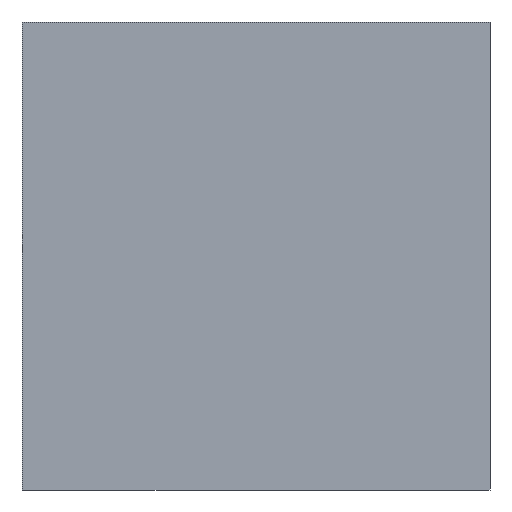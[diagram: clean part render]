
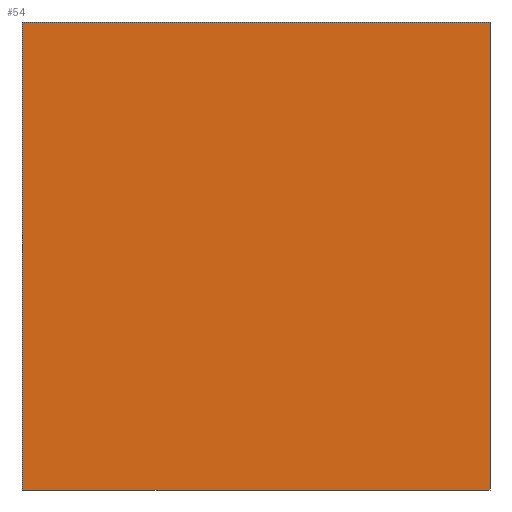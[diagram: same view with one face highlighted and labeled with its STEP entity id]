
A CAD part, front view. The second image highlights one B-rep face of the part: STEP entity #54.
In plain terms, the highlighted planar face has unit normal (0, -1, 0).
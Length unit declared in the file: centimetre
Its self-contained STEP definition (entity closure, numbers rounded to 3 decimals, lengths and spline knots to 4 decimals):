
#22 = CARTESIAN_POINT ( 'NONE',  ( 0., 0., 1000. ) ) ;
#31 = PLANE ( 'NONE',  #41 ) ;
#41 = AXIS2_PLACEMENT_3D ( 'NONE', #474, #160, #456 ) ;
#49 = VECTOR ( 'NONE', #62, 100. ) ;
#54 = ADVANCED_FACE ( 'NONE', ( #69 ), #31, .F. ) ;
#62 = DIRECTION ( 'NONE',  ( 1., 0., 0. ) ) ;
#69 = FACE_OUTER_BOUND ( 'NONE', #182, .T. ) ;
#73 = VECTOR ( 'NONE', #145, 100. ) ;
#85 = LINE ( 'NONE', #230, #150 ) ;
#97 = LINE ( 'NONE', #22, #158 ) ;
#98 = ORIENTED_EDGE ( 'NONE', *, *, #356, .F. ) ;
#104 = VERTEX_POINT ( 'NONE', #410 ) ;
#128 = EDGE_CURVE ( 'NONE', #405, #104, #85, .T. ) ;
#145 = DIRECTION ( 'NONE',  ( 0., 0., -1. ) ) ;
#150 = VECTOR ( 'NONE', #228, 100. ) ;
#158 = VECTOR ( 'NONE', #174, 100. ) ;
#160 = DIRECTION ( 'NONE',  ( 0., 1., 0. ) ) ;
#174 = DIRECTION ( 'NONE',  ( 1., 0., 0. ) ) ;
#181 = CARTESIAN_POINT ( 'NONE',  ( 0., 0., 0. ) ) ;
#182 = EDGE_LOOP ( 'NONE', ( #286, #387, #98, #391 ) ) ;
#205 = CARTESIAN_POINT ( 'NONE',  ( 0., 0., 0. ) ) ;
#228 = DIRECTION ( 'NONE',  ( 0., 0., -1. ) ) ;
#230 = CARTESIAN_POINT ( 'NONE',  ( 1000., 0., 1000. ) ) ;
#251 = LINE ( 'NONE', #320, #73 ) ;
#277 = LINE ( 'NONE', #205, #49 ) ;
#286 = ORIENTED_EDGE ( 'NONE', *, *, #291, .T. ) ;
#291 = EDGE_CURVE ( 'NONE', #471, #104, #277, .T. ) ;
#310 = CARTESIAN_POINT ( 'NONE',  ( 0., 0., 1000. ) ) ;
#320 = CARTESIAN_POINT ( 'NONE',  ( 0., 0., 1000. ) ) ;
#354 = VERTEX_POINT ( 'NONE', #310 ) ;
#356 = EDGE_CURVE ( 'NONE', #354, #405, #97, .T. ) ;
#387 = ORIENTED_EDGE ( 'NONE', *, *, #128, .F. ) ;
#391 = ORIENTED_EDGE ( 'NONE', *, *, #449, .T. ) ;
#396 = CARTESIAN_POINT ( 'NONE',  ( 1000., 0., 1000. ) ) ;
#405 = VERTEX_POINT ( 'NONE', #396 ) ;
#410 = CARTESIAN_POINT ( 'NONE',  ( 1000., 0., 0. ) ) ;
#449 = EDGE_CURVE ( 'NONE', #354, #471, #251, .T. ) ;
#456 = DIRECTION ( 'NONE',  ( 0., 0., 1. ) ) ;
#471 = VERTEX_POINT ( 'NONE', #181 ) ;
#474 = CARTESIAN_POINT ( 'NONE',  ( 0., 0., 1000. ) ) ;
